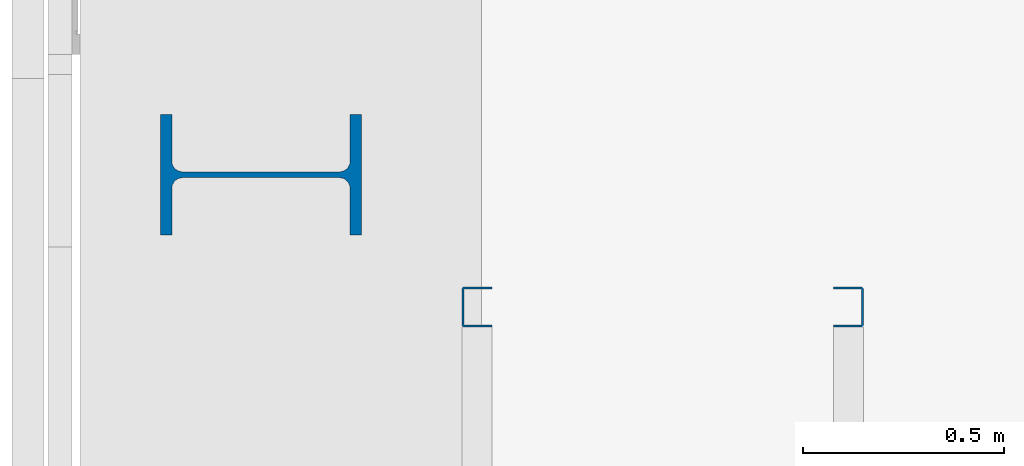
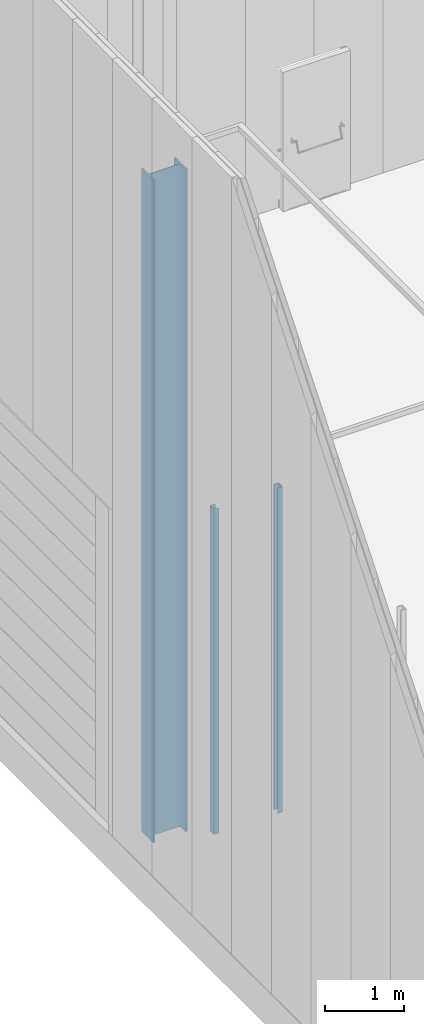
# One storey, part 41 of 302: 3 columns.
"""IFC2X3 building model written with IfcOpenShell, lengths in metres."""

from ifc_helpers import new_model, entity, si_unit, converted_unit, derived_unit, direction, frame, frame_2d, origin, place, context, subcontext, project, spatial, polyline, circle_curve, parameter, trimmed, segment, composite_curve, outline, extrude, source, transform, mapped, material, type_object, type_shapes, element, save


model = new_model("IFC2X3")

# Units and contexts
model_context = context("Model", 3, precision=1e-05, world=origin(), true_north=direction((6.12303176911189e-17, 1.0)))
body_context = subcontext(model_context, "Body", "Model", "MODEL_VIEW")
ifc_project = project(units=[si_unit("LENGTHUNIT", "METRE"), si_unit("AREAUNIT", "SQUARE_METRE"), si_unit("VOLUMEUNIT", "CUBIC_METRE"), converted_unit("PLANEANGLEUNIT", "DEGREE", entity("IfcRatioMeasure", 0.0174532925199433), si_unit("PLANEANGLEUNIT", "RADIAN"), dimensions=[0, 0, 0, 0, 0, 0, 0]), si_unit("MASSUNIT", "GRAM", prefix="KILO"), derived_unit("MASSDENSITYUNIT", [(si_unit("MASSUNIT", "GRAM", prefix="KILO"), 1), (si_unit("LENGTHUNIT", "METRE"), -3)]), derived_unit("MOMENTOFINERTIAUNIT", [(si_unit("LENGTHUNIT", "METRE"), 4)]), si_unit("TIMEUNIT", "SECOND"), si_unit("FREQUENCYUNIT", "HERTZ"), si_unit("THERMODYNAMICTEMPERATUREUNIT", "DEGREE_CELSIUS"), derived_unit("THERMALTRANSMITTANCEUNIT", [(si_unit("MASSUNIT", "GRAM", prefix="KILO"), 1), (si_unit("THERMODYNAMICTEMPERATUREUNIT", "KELVIN"), -1), (si_unit("TIMEUNIT", "SECOND"), -3)]), derived_unit("VOLUMETRICFLOWRATEUNIT", [(si_unit("LENGTHUNIT", "METRE"), 3), (si_unit("TIMEUNIT", "SECOND"), -1)]), si_unit("ELECTRICCURRENTUNIT", "AMPERE"), si_unit("ELECTRICVOLTAGEUNIT", "VOLT"), si_unit("POWERUNIT", "WATT"), si_unit("FORCEUNIT", "NEWTON", prefix="KILO"), si_unit("ILLUMINANCEUNIT", "LUX"), si_unit("LUMINOUSFLUXUNIT", "LUMEN"), si_unit("LUMINOUSINTENSITYUNIT", "CANDELA"), derived_unit("USERDEFINED", [(si_unit("MASSUNIT", "GRAM", prefix="KILO"), -1), (si_unit("LENGTHUNIT", "METRE"), -2), (si_unit("TIMEUNIT", "SECOND"), 3), (si_unit("LUMINOUSFLUXUNIT", "LUMEN"), 1)]), derived_unit("LINEARVELOCITYUNIT", [(si_unit("LENGTHUNIT", "METRE"), 1), (si_unit("TIMEUNIT", "SECOND"), -1)]), si_unit("PRESSUREUNIT", "PASCAL"), derived_unit("USERDEFINED", [(si_unit("LENGTHUNIT", "METRE"), -2), (si_unit("MASSUNIT", "GRAM", prefix="KILO"), 1), (si_unit("TIMEUNIT", "SECOND"), -2)]), derived_unit("LINEARFORCEUNIT", [(si_unit("MASSUNIT", "GRAM", prefix="KILO"), 1), (si_unit("LENGTHUNIT", "METRE"), 1), (si_unit("TIMEUNIT", "SECOND"), -2), (si_unit("LENGTHUNIT", "METRE"), -1)]), derived_unit("PLANARFORCEUNIT", [(si_unit("MASSUNIT", "GRAM", prefix="KILO"), 1), (si_unit("LENGTHUNIT", "METRE"), 1), (si_unit("TIMEUNIT", "SECOND"), -2), (si_unit("LENGTHUNIT", "METRE"), -2)])], contexts=[model_context])

# Site, building, storey
site_placement = place(None, origin())
site = spatial("IfcSite", under=ifc_project, at=site_placement, Name="Default", CompositionType="ELEMENT")
building_placement = place(site_placement, origin())
building = spatial("IfcBuilding", under=site, at=building_placement, CompositionType="ELEMENT")
storey_placement = place(building_placement, frame((0.0, 0.0, -1.3)))
storey = spatial("IfcBuildingStorey", under=building, at=storey_placement, Name="00_EG", CompositionType="ELEMENT", Elevation=-1.3)

# Columns
ifc_material = material(Name="Metall - Baustahl S235")
column_type_1 = type_object("IfcColumnType", Name="HEB Stütze:HEB 500", PredefinedType="COLUMN", material=ifc_material)
shared_shape_1 = source(origin(), body_context, "Body", "SweptSolid", [
    extrude(outline(composite_curve([segment(polyline([(0.222, -0.15), (0.25, -0.15)]), True, "CONTINUOUS"), segment(polyline([(0.25, -0.15), (0.25, 0.15)]), True, "CONTINUOUS"), segment(polyline([(0.25, 0.15), (0.222, 0.15)]), True, "CONTINUOUS"), segment(polyline([(0.222, 0.15), (0.222, 0.0342500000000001)]), True, "CONTINUOUS"), segment(trimmed(circle_curve(frame_2d((0.195, 0.0342500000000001), x_axis=(1.0, 0.0)), 0.0270000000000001), [parameter(270.0)], [parameter(0.0)], True, "PARAMETER"), False, "CONTINUOUS"), segment(polyline([(0.195, 0.00724999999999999), (-0.195, 0.00724999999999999)]), True, "CONTINUOUS"), segment(trimmed(circle_curve(frame_2d((-0.195, 0.03425), x_axis=(0.0, -1.0)), 0.027), [parameter(270.0)], [parameter(0.0)], True, "PARAMETER"), False, "CONTINUOUS"), segment(polyline([(-0.222, 0.0342500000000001), (-0.222, 0.15)]), True, "CONTINUOUS"), segment(polyline([(-0.222, 0.15), (-0.25, 0.15)]), True, "CONTINUOUS"), segment(polyline([(-0.25, 0.15), (-0.25, -0.15)]), True, "CONTINUOUS"), segment(polyline([(-0.25, -0.15), (-0.222, -0.15)]), True, "CONTINUOUS"), segment(polyline([(-0.222, -0.15), (-0.222, -0.03425)]), True, "CONTINUOUS"), segment(trimmed(circle_curve(frame_2d((-0.195, -0.03425), x_axis=(-1.0, 0.0)), 0.027), [parameter(269.999999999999)], [parameter(0.0)], True, "PARAMETER"), False, "CONTINUOUS"), segment(polyline([(-0.195, -0.00724999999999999), (0.195, -0.00724999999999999)]), True, "CONTINUOUS"), segment(trimmed(circle_curve(frame_2d((0.195, -0.03425), x_axis=(0.0, 1.0)), 0.027), [parameter(270.0)], [parameter(0.0)], True, "PARAMETER"), False, "CONTINUOUS"), segment(polyline([(0.222, -0.0342499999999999), (0.222, -0.15)]), True, "CONTINUOUS")], self_intersect=False)), frame((0.0, 0.0, -0.0300000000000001), z_axis=(0.0, 0.0, 1.0), x_axis=(0.0, -1.0, 0.0)), (0.0, 0.0, 1.0), 10.175),
])
type_shapes(column_type_1, [shared_shape_1])
column_1_placement = place(storey_placement, frame((-206.990111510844, 64.928088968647, 1.3), z_axis=(0.0, 0.0, 1.0), x_axis=(0.0, -1.0, 0.0)))
element("IfcColumn", 1, at=column_1_placement, inside=storey, type_object=column_type_1, material=ifc_material, Name="HEB Stütze:HEB 500", ObjectType="HEB Stütze:HEB 500", context=body_context, shape_type="MappedRepresentation", body=[
    mapped(shared_shape_1, transform((0.0, 0.0, 0.0), scale=1.0)),
])
column_type_2 = type_object("IfcColumnType", Name="Leichter Stahl Schlossschrauben Stütze:C 100", PredefinedType="COLUMN", material=ifc_material)
shared_shape_2 = source(origin(), body_context, "Body", "SweptSolid", [
    extrude(outline(composite_curve([segment(polyline([(-0.0469749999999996, -0.0499999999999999), (0.0214500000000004, -0.0499999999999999)]), True, "CONTINUOUS"), segment(trimmed(circle_curve(frame_2d((0.0214500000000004, -0.0434249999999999), x_axis=(0.0, -1.0)), 0.00657500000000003), [parameter(0.0)], [parameter(89.9999999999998)], True, "PARAMETER"), True, "CONTINUOUS"), segment(polyline([(0.0280250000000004, -0.0434249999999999), (0.0280250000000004, 0.0434250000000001)]), True, "CONTINUOUS"), segment(trimmed(circle_curve(frame_2d((0.0214500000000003, 0.0434250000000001), x_axis=(1.0, 0.0)), 0.0065750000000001), [parameter(0.0)], [parameter(89.9999999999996)], True, "PARAMETER"), True, "CONTINUOUS"), segment(polyline([(0.0214500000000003, 0.0500000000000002), (-0.0469750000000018, 0.0500000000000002)]), True, "CONTINUOUS"), segment(polyline([(-0.0469750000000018, 0.0500000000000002), (-0.0469750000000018, 0.0450000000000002)]), True, "CONTINUOUS"), segment(polyline([(-0.0469750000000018, 0.0450000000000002), (0.0214500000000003, 0.0450000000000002)]), True, "CONTINUOUS"), segment(trimmed(circle_curve(frame_2d((0.0214500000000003, 0.0434249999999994), x_axis=(0.0, 1.0)), 0.00157500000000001), [parameter(269.999999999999)], [parameter(0.0)], True, "PARAMETER"), False, "CONTINUOUS"), segment(polyline([(0.0230250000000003, 0.0434249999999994), (0.0230250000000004, -0.0434249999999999)]), True, "CONTINUOUS"), segment(trimmed(circle_curve(frame_2d((0.0214500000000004, -0.0434249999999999), x_axis=(1.0, 0.0)), 0.00157500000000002), [parameter(270.0)], [parameter(0.0)], True, "PARAMETER"), False, "CONTINUOUS"), segment(polyline([(0.0214500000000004, -0.0449999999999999), (-0.0469749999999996, -0.0449999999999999)]), True, "CONTINUOUS"), segment(polyline([(-0.0469749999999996, -0.0449999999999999), (-0.0469749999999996, -0.0499999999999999)]), True, "CONTINUOUS")], self_intersect=False)), frame((0.0499999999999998, 0.0280250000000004, -0.0300000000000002), z_axis=(0.0, 0.0, 1.0), x_axis=(0.0, -1.0, 0.0)), (0.0, 0.0, 1.0), 5.0),
])
type_shapes(column_type_2, [shared_shape_2])
column_2_placement = place(storey_placement, frame((-206.490111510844, 64.6488562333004, 1.3), z_axis=(0.0, 0.0, 1.0), x_axis=(0.0, -1.0, 0.0)))
element("IfcColumn", 2, at=column_2_placement, inside=storey, type_object=column_type_2, material=ifc_material, Name="Leichter Stahl Schlossschrauben Stütze:C 100", ObjectType="Leichter Stahl Schlossschrauben Stütze:C 100", context=body_context, shape_type="MappedRepresentation", body=[
    mapped(shared_shape_2, transform((0.0, 0.0, 0.0), scale=1.0)),
])
column_type_3 = type_object("IfcColumnType", Name="Leichter Stahl Schlossschrauben Stütze:C 100", PredefinedType="COLUMN", material=ifc_material)
shared_shape_3 = source(origin(), body_context, "Body", "SweptSolid", [
    extrude(outline(composite_curve([segment(polyline([(-0.0214500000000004, -0.0499999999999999), (0.0469749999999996, -0.0499999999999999)]), True, "CONTINUOUS"), segment(polyline([(0.0469749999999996, -0.0499999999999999), (0.0469749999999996, -0.0449999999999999)]), True, "CONTINUOUS"), segment(polyline([(0.0469749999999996, -0.0449999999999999), (-0.0214500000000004, -0.045)]), True, "CONTINUOUS"), segment(trimmed(circle_curve(frame_2d((-0.0214500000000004, -0.043425), x_axis=(0.0, -1.0)), 0.00157500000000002), [parameter(270.0)], [parameter(0.0)], True, "PARAMETER"), False, "CONTINUOUS"), segment(polyline([(-0.0230250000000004, -0.0434249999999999), (-0.0230250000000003, 0.0434249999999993)]), True, "CONTINUOUS"), segment(trimmed(circle_curve(frame_2d((-0.0214500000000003, 0.0434249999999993), x_axis=(-1.0, 0.0)), 0.00157500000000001), [parameter(269.999999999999)], [parameter(0.0)], True, "PARAMETER"), False, "CONTINUOUS"), segment(polyline([(-0.0214500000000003, 0.0450000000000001), (0.0469750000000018, 0.0450000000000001)]), True, "CONTINUOUS"), segment(polyline([(0.0469750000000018, 0.0450000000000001), (0.0469750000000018, 0.0500000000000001)]), True, "CONTINUOUS"), segment(polyline([(0.0469750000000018, 0.0500000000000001), (-0.0214500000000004, 0.0500000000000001)]), True, "CONTINUOUS"), segment(trimmed(circle_curve(frame_2d((-0.0214500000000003, 0.043425), x_axis=(0.0, 1.0)), 0.0065750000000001), [parameter(0.0)], [parameter(89.9999999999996)], True, "PARAMETER"), True, "CONTINUOUS"), segment(polyline([(-0.0280250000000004, 0.043425), (-0.0280250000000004, -0.043425)]), True, "CONTINUOUS"), segment(trimmed(circle_curve(frame_2d((-0.0214500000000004, -0.0434249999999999), x_axis=(-1.0, 0.0)), 0.00657500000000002), [parameter(0.0)], [parameter(89.9999999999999)], True, "PARAMETER"), True, "CONTINUOUS")], self_intersect=False)), frame((0.0499999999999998, -0.0280250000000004, -0.0300000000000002), z_axis=(0.0, 0.0, 1.0), x_axis=(0.0, -1.0, 0.0)), (0.0, 0.0, 1.0), 5.0),
])
type_shapes(column_type_3, [shared_shape_3])
column_3_placement = place(storey_placement, frame((-205.490111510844, 64.6488562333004, 1.3), z_axis=(0.0, 0.0, 1.0), x_axis=(0.0, -1.0, 0.0)))
element("IfcColumn", 3, at=column_3_placement, inside=storey, type_object=column_type_3, material=ifc_material, Name="Leichter Stahl Schlossschrauben Stütze:C 100", ObjectType="Leichter Stahl Schlossschrauben Stütze:C 100", context=body_context, shape_type="MappedRepresentation", body=[
    mapped(shared_shape_3, transform((0.0, 0.0, 0.0), scale=1.0)),
])

save(model, "model.ifc")
